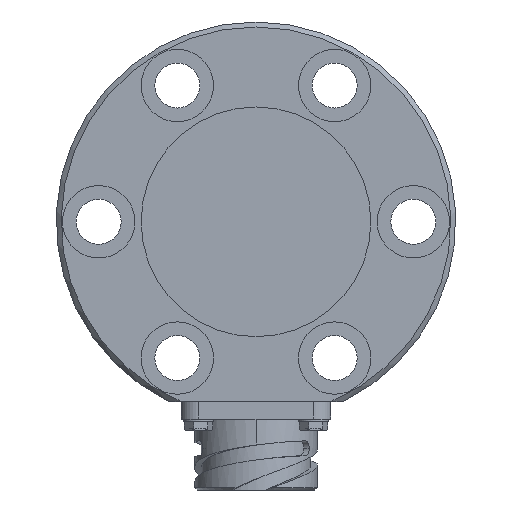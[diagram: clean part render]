
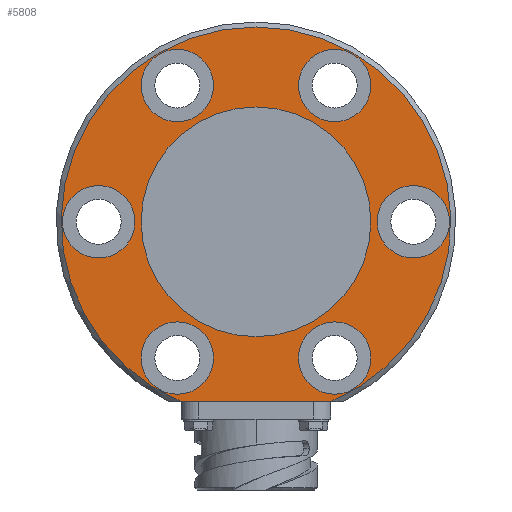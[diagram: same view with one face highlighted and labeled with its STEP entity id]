
A CAD part, left-side view. The second image highlights one B-rep face of the part: STEP entity #5808.
In plain terms, the highlighted planar face has unit normal (-1, 0, 0).
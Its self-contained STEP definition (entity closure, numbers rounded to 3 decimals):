
#972=CARTESIAN_POINT('',(0.,-15.,
-36.));
#1002=CARTESIAN_POINT('',(0.,15.,
-36.));
#1454=DIRECTION('',(0.,1.,0.));
#1455=VECTOR('',#1454,30.);
#1456=CARTESIAN_POINT('',(0.,-15.,
-36.));
#1457=LINE('',#1456,#1455);
#1458=CARTESIAN_POINT('',(0.,0.,
0.));
#1459=DIRECTION('',(1.,0.,0.));
#1460=DIRECTION('',(0.,0.385,-0.923));
#1461=AXIS2_PLACEMENT_3D('',#1458,#1459,#1460);
#1463=CARTESIAN_POINT('',(0.,0.,
0.));
#1464=DIRECTION('',(1.,0.,0.));
#1465=DIRECTION('',(0.,0.,1.));
#1466=AXIS2_PLACEMENT_3D('',#1463,#1464,#1465);
#1468=CARTESIAN_POINT('',(0.,0.,0.));
#1469=DIRECTION('',(-1.,0.,0.));
#1470=DIRECTION('',(0.,-1.,0.));
#1471=AXIS2_PLACEMENT_3D('',#1468,#1469,#1470);
#1473=CARTESIAN_POINT('',(0.,0.,0.));
#1474=DIRECTION('',(-1.,0.,0.));
#1475=DIRECTION('',(0.,1.,0.));
#1476=AXIS2_PLACEMENT_3D('',#1473,#1474,#1475);
#1478=CARTESIAN_POINT('',(0.,-15.75,27.28));
#1479=DIRECTION('',(-1.,0.,0.));
#1480=DIRECTION('',(0.,1.,0.));
#1481=AXIS2_PLACEMENT_3D('',#1478,#1479,#1480);
#1483=CARTESIAN_POINT('',(0.,-15.75,27.28));
#1484=DIRECTION('',(-1.,0.,0.));
#1485=DIRECTION('',(0.,-1.,0.));
#1486=AXIS2_PLACEMENT_3D('',#1483,#1484,#1485);
#1488=CARTESIAN_POINT('',(0.,15.75,27.28));
#1489=DIRECTION('',(-1.,0.,0.));
#1490=DIRECTION('',(0.,0.5,-0.866));
#1491=AXIS2_PLACEMENT_3D('',#1488,#1489,#1490);
#1493=CARTESIAN_POINT('',(0.,15.75,27.28));
#1494=DIRECTION('',(-1.,0.,0.));
#1495=DIRECTION('',(0.,-0.5,0.866));
#1496=AXIS2_PLACEMENT_3D('',#1493,#1494,#1495);
#1498=CARTESIAN_POINT('',(0.,31.5,0.));
#1499=DIRECTION('',(-1.,0.,0.));
#1500=DIRECTION('',(0.,-0.5,-0.866));
#1501=AXIS2_PLACEMENT_3D('',#1498,#1499,#1500);
#1503=CARTESIAN_POINT('',(0.,31.5,0.));
#1504=DIRECTION('',(-1.,0.,0.));
#1505=DIRECTION('',(0.,0.5,0.866));
#1506=AXIS2_PLACEMENT_3D('',#1503,#1504,#1505);
#1508=CARTESIAN_POINT('',(0.,15.75,-27.28));
#1509=DIRECTION('',(-1.,0.,0.));
#1510=DIRECTION('',(0.,-1.,0.));
#1511=AXIS2_PLACEMENT_3D('',#1508,#1509,#1510);
#1513=CARTESIAN_POINT('',(0.,15.75,-27.28));
#1514=DIRECTION('',(-1.,0.,0.));
#1515=DIRECTION('',(0.,1.,0.));
#1516=AXIS2_PLACEMENT_3D('',#1513,#1514,#1515);
#1518=CARTESIAN_POINT('',(0.,-15.75,-27.28));
#1519=DIRECTION('',(-1.,0.,0.));
#1520=DIRECTION('',(0.,-0.5,0.866));
#1521=AXIS2_PLACEMENT_3D('',#1518,#1519,#1520);
#1523=CARTESIAN_POINT('',(0.,-15.75,-27.28));
#1524=DIRECTION('',(-1.,0.,0.));
#1525=DIRECTION('',(0.,0.5,-0.866));
#1526=AXIS2_PLACEMENT_3D('',#1523,#1524,#1525);
#1528=CARTESIAN_POINT('',(0.,-31.5,0.));
#1529=DIRECTION('',(-1.,0.,0.));
#1530=DIRECTION('',(0.,0.5,0.866));
#1531=AXIS2_PLACEMENT_3D('',#1528,#1529,#1530);
#1533=CARTESIAN_POINT('',(0.,-31.5,0.));
#1534=DIRECTION('',(-1.,0.,0.));
#1535=DIRECTION('',(0.,-0.5,-0.866));
#1536=AXIS2_PLACEMENT_3D('',#1533,#1534,#1535);
#3463=VERTEX_POINT('',#972);
#3473=VERTEX_POINT('',#1002);
#3476=CARTESIAN_POINT('',(0.,0.,
39.));
#3477=VERTEX_POINT('',#3476);
#3594=CARTESIAN_POINT('',(0.,-8.5,27.28));
#3595=CARTESIAN_POINT('',(0.,-23.,27.28));
#3596=VERTEX_POINT('',#3594);
#3597=VERTEX_POINT('',#3595);
#3598=CARTESIAN_POINT('',(0.,-23.,0.));
#3599=CARTESIAN_POINT('',(0.,23.,0.));
#3600=VERTEX_POINT('',#3598);
#3601=VERTEX_POINT('',#3599);
#3602=CARTESIAN_POINT('',(0.,19.375,21.001));
#3603=CARTESIAN_POINT('',(0.,12.125,33.558));
#3604=VERTEX_POINT('',#3602);
#3605=VERTEX_POINT('',#3603);
#3606=CARTESIAN_POINT('',(0.,27.875,-6.279));
#3607=CARTESIAN_POINT('',(0.,35.125,6.279));
#3608=VERTEX_POINT('',#3606);
#3609=VERTEX_POINT('',#3607);
#3610=CARTESIAN_POINT('',(0.,8.5,-27.28));
#3611=CARTESIAN_POINT('',(0.,23.,-27.28));
#3612=VERTEX_POINT('',#3610);
#3613=VERTEX_POINT('',#3611);
#3614=CARTESIAN_POINT('',(0.,-19.375,-21.001));
#3615=CARTESIAN_POINT('',(0.,-12.125,-33.558));
#3616=VERTEX_POINT('',#3614);
#3617=VERTEX_POINT('',#3615);
#3618=CARTESIAN_POINT('',(0.,-27.875,6.279));
#3619=CARTESIAN_POINT('',(0.,-35.125,-6.279));
#3620=VERTEX_POINT('',#3618);
#3621=VERTEX_POINT('',#3619);
#5757=CARTESIAN_POINT('',(0.,0.,0.));
#5758=DIRECTION('',(-1.,0.,0.));
#5759=DIRECTION('',(0.,0.,-1.));
#5760=AXIS2_PLACEMENT_3D('',#5757,#5758,#5759);
#5761=PLANE('',#5760);
#5762=ORIENTED_EDGE('',*,*,#5108,.T.);
#5763=ORIENTED_EDGE('',*,*,#5135,.T.);
#5764=ORIENTED_EDGE('',*,*,#5133,.T.);
#5765=EDGE_LOOP('',(#5762,#5763,#5764));
#5766=FACE_OUTER_BOUND('',#5765,.F.);
#5768=ORIENTED_EDGE('',*,*,#5767,.T.);
#5770=ORIENTED_EDGE('',*,*,#5769,.T.);
#5771=EDGE_LOOP('',(#5768,#5770));
#5772=FACE_BOUND('',#5771,.F.);
#5773=ORIENTED_EDGE('',*,*,#5747,.T.);
#5775=ORIENTED_EDGE('',*,*,#5774,.T.);
#5776=EDGE_LOOP('',(#5773,#5775));
#5777=FACE_BOUND('',#5776,.F.);
#5779=ORIENTED_EDGE('',*,*,#5778,.T.);
#5781=ORIENTED_EDGE('',*,*,#5780,.T.);
#5782=EDGE_LOOP('',(#5779,#5781));
#5783=FACE_BOUND('',#5782,.F.);
#5785=ORIENTED_EDGE('',*,*,#5784,.T.);
#5787=ORIENTED_EDGE('',*,*,#5786,.T.);
#5788=EDGE_LOOP('',(#5785,#5787));
#5789=FACE_BOUND('',#5788,.F.);
#5791=ORIENTED_EDGE('',*,*,#5790,.T.);
#5793=ORIENTED_EDGE('',*,*,#5792,.T.);
#5794=EDGE_LOOP('',(#5791,#5793));
#5795=FACE_BOUND('',#5794,.F.);
#5797=ORIENTED_EDGE('',*,*,#5796,.T.);
#5799=ORIENTED_EDGE('',*,*,#5798,.T.);
#5800=EDGE_LOOP('',(#5797,#5799));
#5801=FACE_BOUND('',#5800,.F.);
#5803=ORIENTED_EDGE('',*,*,#5802,.T.);
#5805=ORIENTED_EDGE('',*,*,#5804,.T.);
#5806=EDGE_LOOP('',(#5803,#5805));
#5807=FACE_BOUND('',#5806,.F.);
#5808=ADVANCED_FACE('',(#5766,#5772,#5777,#5783,#5789,#5795,#5801,#5807),#5761,
.T.);
#1462=CIRCLE('',#1461,39.);
#1467=CIRCLE('',#1466,39.);
#1472=CIRCLE('',#1471,23.);
#1477=CIRCLE('',#1476,23.);
#1482=CIRCLE('',#1481,7.25);
#1487=CIRCLE('',#1486,7.25);
#1492=CIRCLE('',#1491,7.25);
#1497=CIRCLE('',#1496,7.25);
#1502=CIRCLE('',#1501,7.25);
#1507=CIRCLE('',#1506,7.25);
#1512=CIRCLE('',#1511,7.25);
#1517=CIRCLE('',#1516,7.25);
#1522=CIRCLE('',#1521,7.25);
#1527=CIRCLE('',#1526,7.25);
#1532=CIRCLE('',#1531,7.25);
#1537=CIRCLE('',#1536,7.25);
#5108=EDGE_CURVE('',#3463,#3473,#1457,.T.);
#5133=EDGE_CURVE('',#3477,#3463,#1467,.T.);
#5135=EDGE_CURVE('',#3473,#3477,#1462,.T.);
#5747=EDGE_CURVE('',#3596,#3597,#1482,.T.);
#5767=EDGE_CURVE('',#3600,#3601,#1472,.T.);
#5769=EDGE_CURVE('',#3601,#3600,#1477,.T.);
#5774=EDGE_CURVE('',#3597,#3596,#1487,.T.);
#5778=EDGE_CURVE('',#3604,#3605,#1492,.T.);
#5780=EDGE_CURVE('',#3605,#3604,#1497,.T.);
#5784=EDGE_CURVE('',#3608,#3609,#1502,.T.);
#5786=EDGE_CURVE('',#3609,#3608,#1507,.T.);
#5790=EDGE_CURVE('',#3612,#3613,#1512,.T.);
#5792=EDGE_CURVE('',#3613,#3612,#1517,.T.);
#5796=EDGE_CURVE('',#3616,#3617,#1522,.T.);
#5798=EDGE_CURVE('',#3617,#3616,#1527,.T.);
#5802=EDGE_CURVE('',#3620,#3621,#1532,.T.);
#5804=EDGE_CURVE('',#3621,#3620,#1537,.T.);
